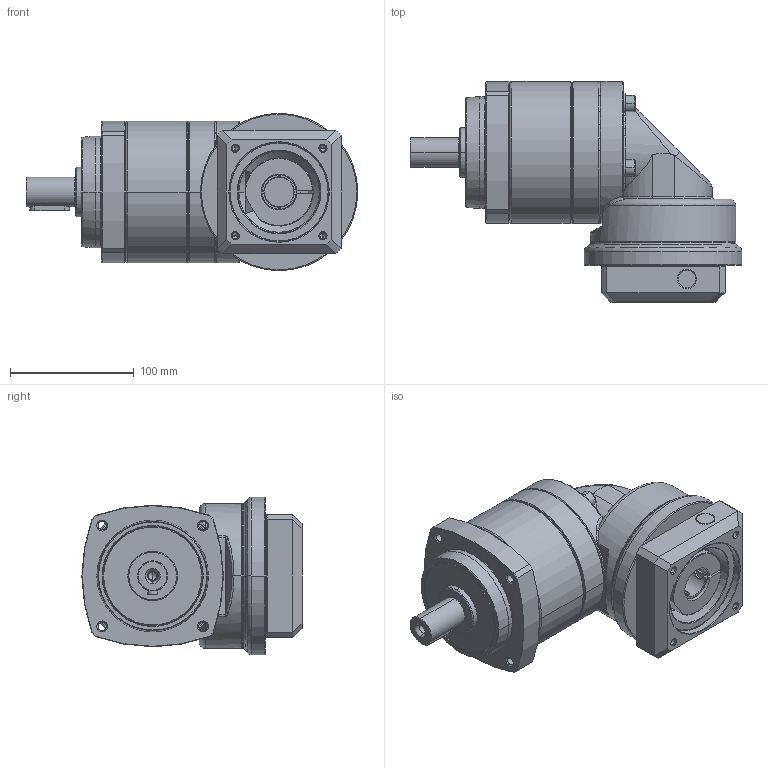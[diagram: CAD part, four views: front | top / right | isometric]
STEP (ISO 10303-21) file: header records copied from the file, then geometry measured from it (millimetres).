
FILE_DESCRIPTION((''),'2;1');
FILE_NAME('PS2R-D_1ST_24-P0411500101_ASM','2016-05-30T',('d01943'),(''),'PRO/ENGINEER BY PARAMETRIC TECHNOLOGY CORPORATION, 2008410','PRO/ENGINEER BY PARAMETRIC TECHNOLOGY CORPORATION, 2008410','');
FILE_SCHEMA(('CONFIG_CONTROL_DESIGN'));
Length unit declared in the file: millimetre
Products named in the file (12): P1328410001; P0250400001; P0350401401; P1349400001; P1017400001; P0713401001; P0503500008; P1350400101; P0411500101; P1702500001; 2111B108035; PS2R-D_1ST_24-P0411500101_ASM
Assembly tree (14 placements, depth 2):
  PS2R-D_1ST_24-P0411500101_ASM
    P1328410001
    P0250400001
    P0350401401
    P1349400001
    P1017400001
    P0713401001
    P0503500008
    P1350400101
    P0411500101
    P1702500001
    2111B108035  x4
Bounding box: 267.5 x 177.5 x 127 mm (x, y, z)
Volume: 1538440.7 mm3; surface area: 316699.4 mm2
Topology: 14 solids, 14 shells, 700 faces, 1549 edges, 898 vertices
Faces by surface type: cylinder 212, cone 208, plane 154, torus 92, bspline 34
Entity records: 22435 total; most frequent: CARTESIAN_POINT 8945, DIRECTION 2969, ORIENTED_EDGE 2622, EDGE_CURVE 1311, AXIS2_PLACEMENT_3D 1256, VERTEX_POINT 778, EDGE_LOOP 681, CIRCLE 663
